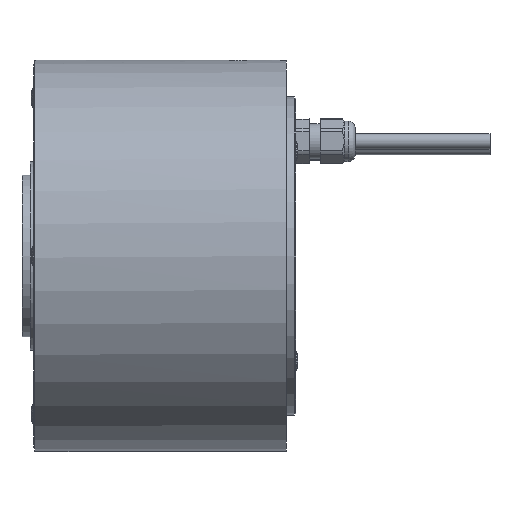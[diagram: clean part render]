
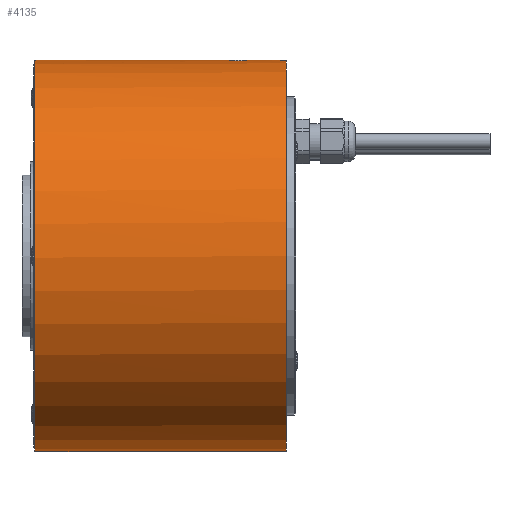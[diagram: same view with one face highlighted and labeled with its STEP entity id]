
A CAD part, left-side view. The second image highlights one B-rep face of the part: STEP entity #4135.
In plain terms, the highlighted cylindrical face has radius 72.5 mm (diameter 145 mm), a partial arc.
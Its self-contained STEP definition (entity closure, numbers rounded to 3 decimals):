
#23 = DIRECTION ( 'NONE',  ( 0., 1., 0. ) ) ;
#175 = CYLINDRICAL_SURFACE ( 'NONE', #9445, 72.5 ) ;
#819 = CARTESIAN_POINT ( 'NONE',  ( -2.951, -76.902, 72.44 ) ) ;
#1022 = CARTESIAN_POINT ( 'NONE',  ( -0.881, -71.909, 72.495 ) ) ;
#1461 = CARTESIAN_POINT ( 'NONE',  ( 0., -96.2, 0. ) ) ;
#1661 = ORIENTED_EDGE ( 'NONE', *, *, #4479, .F. ) ;
#1671 = DIRECTION ( 'NONE',  ( 0., 0., 1. ) ) ;
#2226 = CARTESIAN_POINT ( 'NONE',  ( -3.055, -73.692, 72.436 ) ) ;
#2232 = CARTESIAN_POINT ( 'NONE',  ( -3.292, -76.08, 72.425 ) ) ;
#2333 = CARTESIAN_POINT ( 'NONE',  ( -3.056, -76.707, 72.436 ) ) ;
#2635 = CARTESIAN_POINT ( 'NONE',  ( -1.096, -71.974, 72.492 ) ) ;
#3168 = ORIENTED_EDGE ( 'NONE', *, *, #14803, .F. ) ;
#3471 = CARTESIAN_POINT ( 'NONE',  ( -1.25, -0.2, 72.489 ) ) ;
#3573 = B_SPLINE_CURVE_WITH_KNOTS ( 'NONE', 3,
 ( #18935, #7406, #10534, #2232, #20561, #2333, #819, #20361, #13977, #14088, #5688, #3963, #5791, #12258, #8808, #15400 ),
 .UNSPECIFIED., .F., .F.,
 ( 4, 2, 2, 2, 2, 2, 2, 4 ),
 ( 0.016, 0.017, 0.017, 0.018, 0.019, 0.019, 0.02, 0.021 ),
 .UNSPECIFIED. ) ;
#3847 = CARTESIAN_POINT ( 'NONE',  ( -2.075, -72.498, 72.471 ) ) ;
#3927 = ORIENTED_EDGE ( 'NONE', *, *, #13487, .T. ) ;
#3963 = CARTESIAN_POINT ( 'NONE',  ( -1.706, -78.149, 72.48 ) ) ;
#4021 = VECTOR ( 'NONE', #5511, 1000. ) ;
#4051 = CARTESIAN_POINT ( 'NONE',  ( -3.226, -74.104, 72.428 ) ) ;
#4135 = ADVANCED_FACE ( 'NONE', ( #9664 ), #175, .T. ) ;
#4479 = EDGE_CURVE ( 'NONE', #17290, #16496, #5350, .T. ) ;
#4565 = ORIENTED_EDGE ( 'NONE', *, *, #15122, .F. ) ;
#4611 = CARTESIAN_POINT ( 'NONE',  ( 0., -71.8, 72.5 ) ) ;
#4628 = DIRECTION ( 'NONE',  ( 0., 0., -1. ) ) ;
#5023 = CARTESIAN_POINT ( 'NONE',  ( 0., -0.2, 0. ) ) ;
#5350 = CIRCLE ( 'NONE', #5691, 72.5 ) ;
#5511 = DIRECTION ( 'NONE',  ( 0., 1., 0. ) ) ;
#5575 = CARTESIAN_POINT ( 'NONE',  ( -3.4, -75.2, 72.42 ) ) ;
#5688 = CARTESIAN_POINT ( 'NONE',  ( -2.077, -77.901, 72.47 ) ) ;
#5691 = AXIS2_PLACEMENT_3D ( 'NONE', #8066, #14650, #13138 ) ;
#5791 = CARTESIAN_POINT ( 'NONE',  ( -1.508, -78.255, 72.485 ) ) ;
#5833 = VERTEX_POINT ( 'NONE', #7872 ) ;
#5994 = CARTESIAN_POINT ( 'NONE',  ( -1.505, -72.143, 72.485 ) ) ;
#6069 = DIRECTION ( 'NONE',  ( 0., 1., 0. ) ) ;
#6215 = AXIS2_PLACEMENT_3D ( 'NONE', #5023, #11607, #1671 ) ;
#6250 = DIRECTION ( 'NONE',  ( 0., -1., 0. ) ) ;
#6583 = CARTESIAN_POINT ( 'NONE',  ( 0., -93.2, 0. ) ) ;
#6720 = CARTESIAN_POINT ( 'NONE',  ( -3.4, -75.2, 72.42 ) ) ;
#7190 = CARTESIAN_POINT ( 'NONE',  ( -3.292, -74.32, 72.425 ) ) ;
#7370 = VERTEX_POINT ( 'NONE', #4611 ) ;
#7406 = CARTESIAN_POINT ( 'NONE',  ( -3.4, -75.424, 72.42 ) ) ;
#7872 = CARTESIAN_POINT ( 'NONE',  ( 0., -78.6, 72.5 ) ) ;
#8066 = CARTESIAN_POINT ( 'NONE',  ( 0., 0., 0. ) ) ;
#8772 = ORIENTED_EDGE ( 'NONE', *, *, #18713, .F. ) ;
#8799 = CARTESIAN_POINT ( 'NONE',  ( -2.704, -73.127, 72.45 ) ) ;
#8808 = CARTESIAN_POINT ( 'NONE',  ( -0.449, -78.6, 72.5 ) ) ;
#9003 = CARTESIAN_POINT ( 'NONE',  ( -3.4, -74.976, 72.42 ) ) ;
#9445 = AXIS2_PLACEMENT_3D ( 'NONE', #1461, #13325, #9880 ) ;
#9664 = FACE_OUTER_BOUND ( 'NONE', #16096, .T. ) ;
#9880 = DIRECTION ( 'NONE',  ( 0., 0., 1. ) ) ;
#10059 = CARTESIAN_POINT ( 'NONE',  ( -1.25, 0., 72.489 ) ) ;
#10426 = CARTESIAN_POINT ( 'NONE',  ( -2.247, -72.638, 72.465 ) ) ;
#10534 = CARTESIAN_POINT ( 'NONE',  ( -3.378, -75.646, 72.421 ) ) ;
#11511 = LINE ( 'NONE', #16575, #14044 ) ;
#11607 = DIRECTION ( 'NONE',  ( 0., 1., 0. ) ) ;
#11826 = EDGE_CURVE ( 'NONE', #17986, #5833, #13175, .T. ) ;
#11911 = B_SPLINE_CURVE_WITH_KNOTS ( 'NONE', 3,
 ( #20665, #15806, #12456, #1022, #2635, #5994, #18618, #3847, #10426, #17008, #8799, #18823, #2226, #4051, #7190, #13762, #9003, #5575 ),
 .UNSPECIFIED., .F., .F.,
 ( 4, 2, 2, 2, 2, 2, 2, 2, 4 ),
 ( 0.011, 0.011, 0.012, 0.013, 0.013, 0.014, 0.015, 0.015, 0.016 ),
 .UNSPECIFIED. ) ;
#11926 = CARTESIAN_POINT ( 'NONE',  ( 0., 0., -72.5 ) ) ;
#12029 = VECTOR ( 'NONE', #6069, 1000. ) ;
#12258 = CARTESIAN_POINT ( 'NONE',  ( -0.895, -78.51, 72.496 ) ) ;
#12456 = CARTESIAN_POINT ( 'NONE',  ( -0.443, -71.822, 72.499 ) ) ;
#12645 = CARTESIAN_POINT ( 'NONE',  ( 0., -96.2, 72.5 ) ) ;
#13138 = DIRECTION ( 'NONE',  ( 0., 0., 1. ) ) ;
#13175 = LINE ( 'NONE', #16413, #18744 ) ;
#13325 = DIRECTION ( 'NONE',  ( 0., 1., 0. ) ) ;
#13487 = EDGE_CURVE ( 'NONE', #15767, #16496, #15111, .T. ) ;
#13762 = CARTESIAN_POINT ( 'NONE',  ( -3.378, -74.755, 72.421 ) ) ;
#13977 = CARTESIAN_POINT ( 'NONE',  ( -2.562, -77.447, 72.455 ) ) ;
#14044 = VECTOR ( 'NONE', #18178, 1000. ) ;
#14088 = CARTESIAN_POINT ( 'NONE',  ( -2.248, -77.76, 72.465 ) ) ;
#14359 = LINE ( 'NONE', #12645, #12029 ) ;
#14615 = ORIENTED_EDGE ( 'NONE', *, *, #16030, .F. ) ;
#14650 = DIRECTION ( 'NONE',  ( 0., 1., 0. ) ) ;
#14803 = EDGE_CURVE ( 'NONE', #17986, #15860, #20251, .T. ) ;
#14960 = ORIENTED_EDGE ( 'NONE', *, *, #18515, .F. ) ;
#15111 = LINE ( 'NONE', #20390, #4021 ) ;
#15122 = EDGE_CURVE ( 'NONE', #7370, #19964, #11911, .T. ) ;
#15398 = EDGE_CURVE ( 'NONE', #7370, #17259, #14359, .T. ) ;
#15400 = CARTESIAN_POINT ( 'NONE',  ( 0., -78.6, 72.5 ) ) ;
#15767 = VERTEX_POINT ( 'NONE', #3471 ) ;
#15806 = CARTESIAN_POINT ( 'NONE',  ( -0.222, -71.8, 72.5 ) ) ;
#15860 = VERTEX_POINT ( 'NONE', #18341 ) ;
#16030 = EDGE_CURVE ( 'NONE', #15860, #17290, #11511, .T. ) ;
#16096 = EDGE_LOOP ( 'NONE', ( #14615, #3168, #18593, #14960, #4565, #17177, #8772, #3927, #1661 ) ) ;
#16344 = CARTESIAN_POINT ( 'NONE',  ( 0., -0.2, 72.5 ) ) ;
#16413 = CARTESIAN_POINT ( 'NONE',  ( 0., -96.2, 72.5 ) ) ;
#16496 = VERTEX_POINT ( 'NONE', #10059 ) ;
#16575 = CARTESIAN_POINT ( 'NONE',  ( 0., -96.2, -72.5 ) ) ;
#17008 = CARTESIAN_POINT ( 'NONE',  ( -2.56, -72.952, 72.455 ) ) ;
#17042 = CARTESIAN_POINT ( 'NONE',  ( 0., -93.2, 72.5 ) ) ;
#17152 = AXIS2_PLACEMENT_3D ( 'NONE', #6583, #6250, #4628 ) ;
#17177 = ORIENTED_EDGE ( 'NONE', *, *, #15398, .T. ) ;
#17259 = VERTEX_POINT ( 'NONE', #16344 ) ;
#17290 = VERTEX_POINT ( 'NONE', #11926 ) ;
#17986 = VERTEX_POINT ( 'NONE', #17042 ) ;
#18178 = DIRECTION ( 'NONE',  ( 0., 1., 0. ) ) ;
#18341 = CARTESIAN_POINT ( 'NONE',  ( 0., -93.2, -72.5 ) ) ;
#18515 = EDGE_CURVE ( 'NONE', #19964, #5833, #3573, .T. ) ;
#18593 = ORIENTED_EDGE ( 'NONE', *, *, #11826, .T. ) ;
#18618 = CARTESIAN_POINT ( 'NONE',  ( -1.703, -72.249, 72.48 ) ) ;
#18713 = EDGE_CURVE ( 'NONE', #15767, #17259, #20359, .T. ) ;
#18744 = VECTOR ( 'NONE', #23, 1000. ) ;
#18823 = CARTESIAN_POINT ( 'NONE',  ( -2.951, -73.497, 72.44 ) ) ;
#18935 = CARTESIAN_POINT ( 'NONE',  ( -3.4, -75.2, 72.42 ) ) ;
#19964 = VERTEX_POINT ( 'NONE', #6720 ) ;
#20251 = CIRCLE ( 'NONE', #17152, 72.5 ) ;
#20359 = CIRCLE ( 'NONE', #6215, 72.5 ) ;
#20361 = CARTESIAN_POINT ( 'NONE',  ( -2.705, -77.272, 72.45 ) ) ;
#20390 = CARTESIAN_POINT ( 'NONE',  ( -1.25, -0.2, 72.489 ) ) ;
#20561 = CARTESIAN_POINT ( 'NONE',  ( -3.226, -76.295, 72.428 ) ) ;
#20665 = CARTESIAN_POINT ( 'NONE',  ( 0., -71.8, 72.5 ) ) ;
